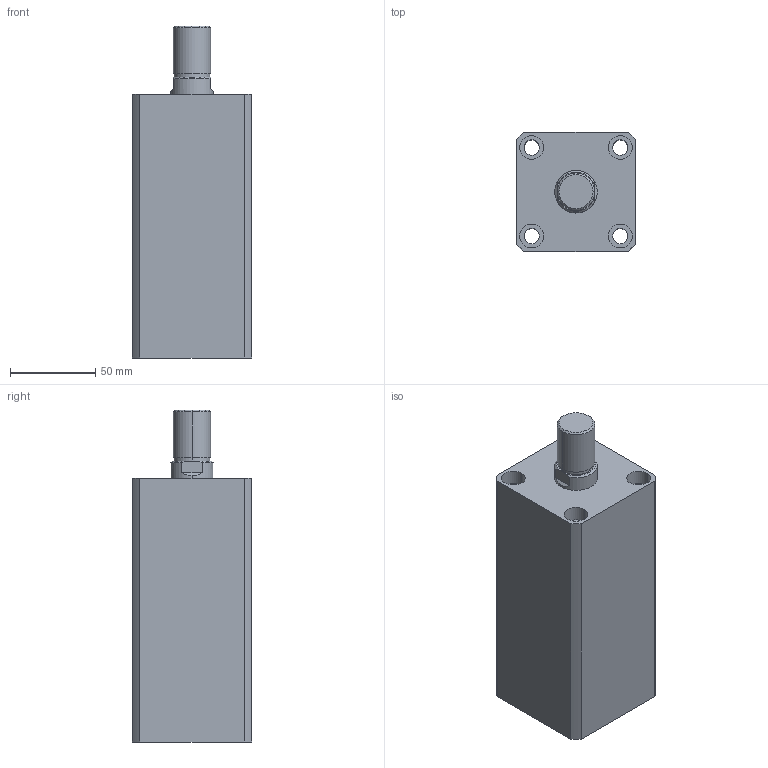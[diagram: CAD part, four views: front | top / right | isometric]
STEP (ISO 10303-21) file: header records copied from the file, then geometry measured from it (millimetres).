
FILE_DESCRIPTION (( 'STEP AP203' ), '1' );
FILE_NAME ('HTB-SDMB40-100W.STEP', '2019-10-09T02:23:04', ( '微软用户' ), ( '微软中国' ), 'SwSTEP 2.0', 'SolidWorks 2012', '' );
FILE_SCHEMA (( 'CONFIG_CONTROL_DESIGN' ));
Length unit declared in the file: millimetre
Products named in the file (3): HTB-SDMB40-100W; HTB-SDMB40-100W活塞杆; HTB-SDMB40-100掛极
Assembly tree (2 placements, depth 2):
  HTB-SDMB40-100W
    HTB-SDMB40-100掛极
    HTB-SDMB40-100W活塞杆
Bounding box: 70 x 70 x 195 mm (x, y, z)
Volume: 646602.2 mm3; surface area: 106166.8 mm2
Topology: 2 solids, 2 shells, 141 faces, 337 edges, 222 vertices
Faces by surface type: plane 67, cylinder 48, bspline 16, torus 6, cone 4
Entity records: 5180 total; most frequent: CARTESIAN_POINT 1597, ORIENTED_EDGE 674, DIRECTION 669, EDGE_CURVE 337, AXIS2_PLACEMENT_3D 242, VERTEX_POINT 222, VECTOR 185, LINE 185
